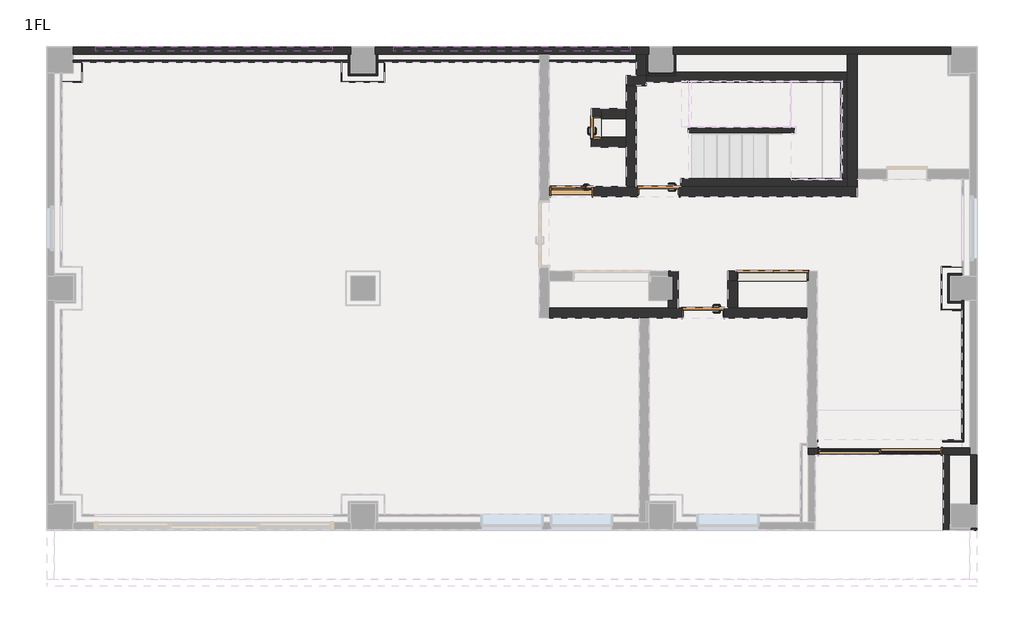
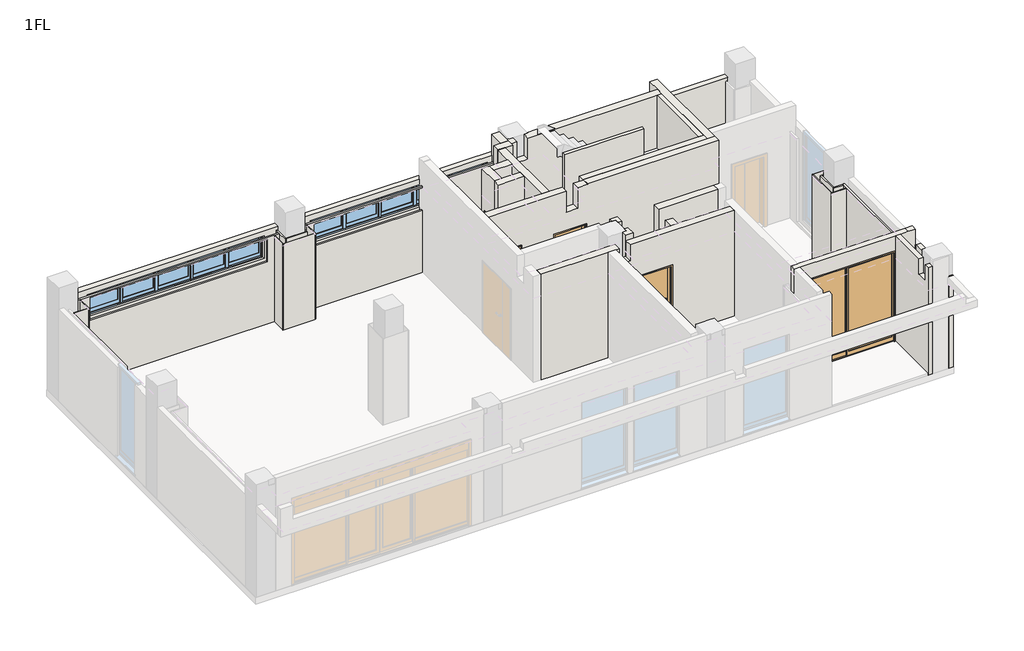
# One storey, part 2 of 3: 42 walls, 6 doors, 2 windows.
"""IFC4 building model written with IfcOpenShell, lengths in millimetres."""

from ifc_helpers import new_model, si_unit, frame, origin, place, context, project, spatial, polyline, outline, extrude, faceted_brep, transform, mapped, element, save
from components import door_bff3f04c, door_5d5221cc, door_e94faea5, door_b2e5d67d, door_75bfbb1d, window_ed3df4e0

model = new_model("IFC4")

# Units and contexts
model_context = context("Model", 3, world=origin())
ifc_project = project(units=[si_unit("LENGTHUNIT", "METRE", prefix="MILLI")], contexts=[model_context])

# Site, building, storey
site = spatial("IfcSite", under=ifc_project)
building = spatial("IfcBuilding", under=site)
storey = spatial("IfcBuildingStorey", under=building, Name="1FL", Elevation=100.0)

# Doors
placement = place(None, origin())
door_shape = door_bff3f04c(model_context)
element("IfcDoor", 1, ObjectType="140_片開扉_スリットガラリ付 : SD3_H2000W800", at=placement, inside=storey, context=model_context, shape_type="MappedRepresentation", body=[
    mapped(door_shape, transform((10290.0, 6540.0, 100.0), x_axis=(-1.0, 0.0, 0.0), y_axis=(0.0, -1.0, 0.0), z_axis=(0.0, 0.0, 1.0))),
])
door_2_shape = door_5d5221cc(model_context)
element("IfcDoor", 2, ObjectType="B1 両開 フラッシュ_A1枠 : SD6-H2000W1400", at=placement, inside=storey, context=model_context, shape_type="MappedRepresentation", body=[
    mapped(door_2_shape, transform((14340.0, 4840.0, 100.0), x_axis=(1.0, 0.0, 0.0), y_axis=(0.0, 1.0, 0.0), z_axis=(0.0, 0.0, 1.0))),
])
door_3_shape = door_e94faea5(model_context)
element("IfcDoor", 3, ObjectType="A1 片開 フラッシュ_A1枠 : SD4_H2000W800", at=placement, inside=storey, context=model_context, shape_type="MappedRepresentation", body=[
    mapped(door_3_shape, transform((12040.0, 6540.0, 100.0), x_axis=(1.0, 0.0, 0.0), y_axis=(0.0, 1.0, 0.0), z_axis=(0.0, 0.0, 1.0))),
])
door_4_shape = door_b2e5d67d(model_context)
element("IfcDoor", 4, ObjectType="A1 片開 フラッシュ_A1枠 : SD4_H2000W400", at=placement, inside=storey, context=model_context, shape_type="MappedRepresentation", body=[
    mapped(door_4_shape, transform((10790.0, 7835.0, 100.0), x_axis=(0.0, -1.0, 0.0), y_axis=(1.0, 0.0, 0.0), z_axis=(0.0, 0.0, 1.0))),
])
element("IfcDoor", 5, ObjectType="A1 片開 フラッシュ_A1枠 : SD2_H2000W800", at=placement, inside=storey, context=model_context, shape_type="MappedRepresentation", body=[
    mapped(door_3_shape, transform((12940.0, 4090.0, 100.0), x_axis=(1.0, 0.0, 0.0), y_axis=(0.0, 1.0, 0.0), z_axis=(0.0, 0.0, 1.0))),
])
door_5_shape = door_75bfbb1d(model_context)
element("IfcDoor", 6, ObjectType="C_引違扉_フラッシュ : SSD1-H2550W2470", at=placement, inside=storey, context=model_context, shape_type="MappedRepresentation", body=[
    mapped(door_5_shape, transform((16505.0, 1302.5, 100.0), x_axis=(-1.0, 0.0, 0.0), y_axis=(0.0, -1.0, 0.0), z_axis=(0.0, 0.0, 1.0))),
])

# Walls
element("IfcWall", 7, ObjectType="•_RC120+押出法ポリスチレンフォーム1種 t25", at=placement, inside=storey, context=model_context, shape_type="Brep", body=[
    faceted_brep([(17930.0, 9305.0, 50.0), (17930.0, 9305.0, 2650.0), (12340.0, 9305.0, 2650.0), (12340.0, 9305.0, 50.0), (12359.9998932, 9305.0, 50.0), (12389.9998932, 9305.0, 50.0), (15840.0, 9305.0, 50.0), (16040.0, 9305.0, 50.0), (17869.9999426, 9305.0, 50.0), (17899.9999426, 9305.0, 50.0), (17930.0, 9450.0, 2650.0), (17930.0, 9450.0, 50.0), (12340.0, 9450.0, 50.0), (12340.0, 9450.0, 2650.0)], [[[0, 1, 2, 3, 4, 5, 6, 7, 8, 9]], [[10, 11, 12, 13]], [[11, 0, 9, 8, 7, 6, 5, 4, 3, 12]], [[1, 10, 13, 2]], [[1, 0, 11, 10]], [[3, 2, 13, 12]]]),
    faceted_brep([(5840.0, 9305.0, 50.0), (5840.0, 9305.0, 2650.0), (250.0, 9305.0, 2650.0), (250.0, 9305.0, 50.0), (5789.9995306, 9305.0, 50.0), (5819.9995306, 9305.0, 50.0), (5470.0, 9305.0, 2500.0), (5470.0, 9305.0, 1865.0), (710.0, 9305.0, 1865.0), (710.0, 9305.0, 2500.0), (5840.0, 9450.0, 2650.0), (5840.0, 9450.0, 50.0), (250.0, 9450.0, 50.0), (250.0, 9450.0, 2650.0), (5470.0, 9450.0, 1830.0), (5470.0, 9450.0, 2500.0), (710.0, 9450.0, 2500.0), (710.0, 9450.0, 1830.0), (5470.0, 9370.0, 1830.0), (5470.0, 9370.0, 1865.0), (710.0, 9370.0, 1865.0), (710.0, 9370.0, 1830.0)], [[[0, 1, 2, 3, 4, 5], [6, 7, 8, 9]], [[10, 11, 12, 13], [14, 15, 16, 17]], [[11, 0, 5, 4, 3, 12]], [[1, 10, 13, 2]], [[1, 0, 11, 10]], [[15, 14, 18, 19, 7, 6]], [[8, 20, 21, 17, 16, 9]], [[7, 19, 20, 8]], [[15, 6, 9, 16]], [[18, 14, 17, 21]], [[19, 18, 21, 20]], [[3, 2, 13, 12]]]),
    faceted_brep([(6340.0, 9305.0, 2650.0), (6340.0, 9305.0, 50.0), (6359.9999426, 9305.0, 50.0), (6389.9999426, 9305.0, 50.0), (9640.0, 9305.0, 50.0), (9840.0, 9305.0, 50.0), (11590.452236, 9305.0, 50.0), (11790.452236, 9305.0, 50.0), (11820.452236, 9305.0, 50.0), (11840.0, 9305.0, 50.0), (11840.0, 9305.0, 2650.0), (11470.0, 9305.0, 2500.0), (11470.0, 9305.0, 1865.0), (6710.0, 9305.0, 1865.0), (6710.0, 9305.0, 2500.0), (6340.0, 9450.0, 50.0), (6340.0, 9450.0, 2650.0), (11840.0, 9450.0, 2650.0), (11840.0, 9450.0, 50.0), (11470.0, 9450.0, 1830.0), (11470.0, 9450.0, 2500.0), (6710.0, 9450.0, 2500.0), (6710.0, 9450.0, 1830.0), (11470.0, 9370.0, 1830.0), (11470.0, 9370.0, 1865.0), (6710.0, 9370.0, 1865.0), (6710.0, 9370.0, 1830.0)], [[[0, 1, 2, 3, 4, 5, 6, 7, 8, 9, 10], [11, 12, 13, 14]], [[15, 16, 17, 18], [19, 20, 21, 22]], [[1, 15, 18, 9, 8, 7, 6, 5, 4, 3, 2]], [[16, 0, 10, 17]], [[20, 19, 23, 24, 12, 11]], [[13, 25, 26, 22, 21, 14]], [[12, 24, 25, 13]], [[20, 11, 14, 21]], [[23, 19, 22, 26]], [[24, 23, 26, 25]], [[1, 0, 16, 15]], [[10, 9, 18, 17]]]),
])
element("IfcWall", 8, ObjectType="•_RC120+押出法ポリスチレンフォーム1種 t25", at=placement, inside=storey, context=model_context, shape_type="Brep", body=[
    faceted_brep([(18305.0, 1375.0, 50.0), (15240.0, 1375.0, 50.0), (15055.0, 1375.0, 50.0), (15055.0, 1375.0, 3100.0), (18125.0, 1375.0, 3100.0), (18305.0, 1375.0, 3100.0), (17765.0, 1375.0, 2675.0), (15245.0, 1375.0, 2675.0), (15245.0, 1375.0, 85.0), (17765.0, 1375.0, 85.0), (18305.0, 1230.0, 50.0), (18305.0, 1230.0, 2650.0), (18305.0, 1230.0, 3100.0), (18125.0, 1230.0, 3100.0), (17900.0, 1230.0, 3100.0), (17780.0, 1230.0, 3100.0), (15200.0, 1230.0, 3100.0), (15055.0, 1230.0, 3100.0), (15055.0, 1230.0, 50.0), (15200.0, 1230.0, 50.0), (17780.0, 1230.0, 50.0), (17900.0, 1230.0, 50.0), (17765.0, 1230.0, 2675.0), (17765.0, 1230.0, 85.0), (15245.0, 1230.0, 85.0), (15245.0, 1230.0, 2675.0)], [[[0, 1, 2, 3, 4, 5], [6, 7, 8, 9]], [[10, 11, 12, 13, 14, 15, 16, 17, 18, 19, 20, 21], [22, 23, 24, 25]], [[2, 1, 0, 10, 21, 20, 19, 18]], [[0, 5, 12, 11, 10]], [[3, 2, 18, 17]], [[5, 4, 13, 12]], [[4, 3, 17, 16, 15, 14, 13]], [[23, 22, 6, 9]], [[24, 23, 9, 8]], [[25, 24, 8, 7]], [[22, 25, 7, 6]]]),
])
element("IfcWall", 9, ObjectType="•ALC100+20", at=placement, inside=storey, context=model_context, shape_type="Brep", body=[
    faceted_brep([(18330.0, 1230.0, 2650.0), (18330.0, 1230.0, 50.0), (18330.0, 250.0, 50.0), (18330.0, 250.0, 2650.0), (18450.0, 1230.0, 50.0), (18450.0, 1230.0, 2650.0), (18450.0, 250.0, 2650.0), (18450.0, 250.0, 50.0)], [[[0, 1, 2, 3]], [[4, 5, 6, 7]], [[1, 4, 7, 2]], [[5, 0, 3, 6]], [[1, 0, 5, 4]], [[3, 2, 7, 6]]]),
    faceted_brep([(18330.0, -284.9999682, 50.0), (18330.0, -284.9999682, 2650.0), (18330.0, -250.0, 2650.0), (18330.0, -250.0, 50.0), (18450.0, -284.9999682, 2650.0), (18450.0, -284.9999682, 2450.0), (18450.0, -284.9999682, 50.0), (18450.0, -250.0, 50.0), (18450.0, -250.0, 2650.0)], [[[0, 1, 2, 3]], [[4, 5, 6, 7, 8]], [[6, 0, 3, 7]], [[1, 4, 8, 2]], [[0, 6, 5, 4, 1]], [[3, 2, 8, 7]]]),
])
element("IfcWall", 10, ObjectType="•ALC100+20", at=placement, inside=storey, context=model_context, shape_type="Brep", body=[
    faceted_brep([(17780.0, 1230.0, 50.0), (17780.0, -284.9999682, 50.0), (17780.0, -284.9999682, 3100.0), (17780.0, -150.0, 3100.0), (17780.0, -150.0, 2650.0), (17780.0, 150.0, 2650.0), (17780.0, 150.0, 3100.0), (17780.0, 1230.0, 3100.0), (17900.0, -284.9999682, 50.0), (17900.0, -164.9999682, 50.0), (17900.0, 1230.0, 50.0), (17900.0, 1230.0, 3100.0), (17900.0, 150.0, 3100.0), (17900.0, 150.0, 2650.0), (17900.0, -150.0, 2650.0), (17900.0, -150.0, 3100.0), (17900.0, -284.9999682, 3100.0)], [[[0, 1, 2, 3, 4, 5, 6, 7]], [[8, 9, 10, 11, 12, 13, 14, 15, 16]], [[1, 0, 10, 9, 8]], [[11, 7, 6, 12]], [[2, 16, 15, 3]], [[0, 7, 11, 10]], [[2, 1, 8, 16]], [[5, 13, 12, 6]], [[14, 4, 3, 15]], [[13, 5, 4, 14]]]),
])
element("IfcWall", 11, ObjectType="•RC30+12.5", at=placement, inside=storey, context=model_context, shape_type="Brep", body=[
    faceted_brep([(250.0, 9147.5, 50.0), (426.0, 9147.5, 50.0), (438.5, 9147.5, 50.0), (5651.5, 9147.5, 50.0), (5664.0, 9147.5, 50.0), (5790.0000498, 9147.5, 50.0), (5790.0000498, 9147.5, 2550.0), (5664.0, 9147.5, 2550.0), (5651.5, 9147.5, 2550.0), (438.5, 9147.5, 2550.0), (426.0, 9147.5, 2550.0), (250.0, 9147.5, 2550.0), (5470.0, 9147.5, 2500.0), (5470.0, 9147.5, 1865.0), (710.0, 9147.5, 1865.0), (710.0, 9147.5, 2500.0), (5789.9999097, 9190.0, 50.0), (250.0, 9190.0, 50.0), (250.0, 9190.0, 2550.0), (5789.9999097, 9190.0, 2550.0), (5470.0, 9190.0, 1865.0), (5470.0, 9190.0, 2500.0), (710.0, 9190.0, 2500.0), (710.0, 9190.0, 1865.0)], [[[0, 1, 2, 3, 4, 5, 6, 7, 8, 9, 10, 11], [12, 13, 14, 15]], [[16, 17, 18, 19], [20, 21, 22, 23]], [[5, 4, 3, 2, 1, 0, 17, 16]], [[11, 10, 9, 8, 7, 6, 19, 18]], [[0, 11, 18, 17]], [[6, 5, 16, 19]], [[12, 21, 20, 13]], [[14, 23, 22, 15]], [[13, 20, 23, 14]], [[21, 12, 15, 22]]]),
])
element("IfcWall", 12, ObjectType="•RC30+12.5", at=placement, inside=storey, context=model_context, shape_type="Brep", body=[
    faceted_brep([(6389.9999426, 9147.5, 50.0), (6516.0000044, 9147.5, 50.0), (6528.5000044, 9147.5, 50.0), (9640.0, 9147.5, 50.0), (9640.0, 9147.5, 1865.0), (6710.0, 9147.5, 1865.0), (6710.0, 9147.5, 2500.0), (9640.0, 9147.5, 2500.0), (9640.0, 9147.5, 2550.0), (6528.5000044, 9147.5, 2550.0), (6516.0000044, 9147.5, 2550.0), (6389.9999426, 9147.5, 2550.0), (9640.0, 9190.0, 50.0), (6389.9999426, 9190.0, 50.0), (6389.9999426, 9190.0, 2550.0), (9640.0, 9190.0, 2550.0), (9640.0, 9190.0, 2500.0), (6710.0, 9190.0, 2500.0), (6710.0, 9190.0, 1865.0), (9640.0, 9190.0, 1865.0)], [[[0, 1, 2, 3, 4, 5, 6, 7, 8, 9, 10, 11]], [[12, 13, 14, 15, 16, 17, 18, 19]], [[3, 2, 1, 0, 13, 12]], [[11, 10, 9, 8, 15, 14]], [[15, 8, 7, 16]], [[3, 12, 19, 4]], [[0, 11, 14, 13]], [[5, 18, 17, 6]], [[18, 5, 4, 19]], [[6, 17, 16, 7]]]),
])
element("IfcWall", 13, ObjectType="•RC30+12.5", at=placement, inside=storey, context=model_context, shape_type="Brep", body=[
    faceted_brep([(18147.5, 4339.9999905, 50.0), (18147.5, 4320.0000823, 50.0), (18147.5, 4290.0000823, 50.0), (18147.5, 4160.0, 50.0), (18147.5, 4147.5, 50.0), (18147.5, 1532.5, 50.0), (18147.5, 1490.0, 50.0), (18147.5, 1490.0, 2550.0), (18147.5, 1532.5, 2550.0), (18147.5, 4147.5, 2550.0), (18147.5, 4160.0, 2550.0), (18147.5, 4290.0000823, 2550.0), (18147.5, 4320.0000823, 2550.0), (18147.5, 4339.9999905, 2550.0), (18190.0, 4339.9999905, 50.0), (18190.0, 4339.9999905, 2550.0), (18190.0, 1490.0, 2550.0), (18190.0, 1490.0, 50.0)], [[[0, 1, 2, 3, 4, 5, 6, 7, 8, 9, 10, 11, 12, 13]], [[14, 15, 16, 17]], [[6, 5, 4, 3, 2, 1, 0, 14, 17]], [[13, 12, 11, 10, 9, 8, 7, 16, 15]], [[0, 13, 15, 14]], [[7, 6, 17, 16]]]),
])
element("IfcWall", 14, ObjectType="•RC30+12.5", at=placement, inside=storey, context=model_context, shape_type="SweptSolid", body=[
    extrude(outline(polyline([(50.0, 15240.0), (50.0, 18147.5), (2550.0, 18147.5), (2550.0, 17765.0), (85.0, 17765.0), (85.0, 15245.0), (2550.0, 15245.0), (2550.0, 15240.0), (50.0, 15240.0)])), frame((0.0, 1490.0, 0.0), z_axis=(0.0, 1.0, 0.0), x_axis=(0.0, 0.0, 1.0)), (0.0, 0.0, 1.0), 42.5),
])
element("IfcWall", 15, ObjectType="•RC200", at=placement, inside=storey, context=model_context, shape_type="Brep", body=[
    faceted_brep([(12440.0, 4190.0, 50.0), (12440.0, 4939.9999966, 50.0), (12440.0, 4939.9999966, 3250.0), (12440.0, 4740.0, 3250.0), (12440.0, 4740.0, 2650.0), (12440.0, 4440.0, 2650.0), (12440.0, 4440.0, 3250.0), (12440.0, 4190.0, 3250.0), (12240.0, 4939.9999966, 3250.0), (12240.0, 4939.9999966, 2650.0), (12240.0, 4939.9999966, 50.0), (12240.0, 4840.0, 50.0), (12240.0, 4840.0, 2650.0), (12240.0, 4840.0, 3250.0), (12240.0, 4190.0, 3250.0), (12240.0, 4340.0, 3250.0), (12240.0, 4340.0, 50.0), (12240.0, 4190.0, 50.0), (12240.0, 4190.0, 2650.0), (12240.0, 4190.0, 3100.0), (12340.0, 4340.0, 50.0), (12340.0, 4840.0, 50.0), (12340.0, 4840.0, 3250.0), (12340.0, 4740.0, 3250.0), (12340.0, 4440.0, 3250.0), (12340.0, 4340.0, 3250.0), (12340.0, 4440.0, 2650.0), (12340.0, 4740.0, 2650.0)], [[[0, 1, 2, 3, 4, 5, 6, 7]], [[8, 9, 10, 11, 12, 13]], [[14, 15, 16, 17, 18, 19]], [[1, 0, 17, 16, 20, 21, 11, 10]], [[2, 8, 13, 22, 23, 3]], [[15, 14, 7, 6, 24, 25]], [[2, 1, 10, 9, 8]], [[21, 22, 13, 12, 11]], [[25, 20, 16, 15]], [[22, 21, 20, 25, 24, 26, 27, 23]], [[0, 7, 14, 19, 18, 17]], [[27, 4, 3, 23]], [[5, 26, 24, 6]], [[4, 27, 26, 5]]]),
])
element("IfcWall", 16, ObjectType="•RC200", at=placement, inside=storey, context=model_context, shape_type="Brep", body=[
    faceted_brep([(13367.5, 3990.0, 2127.5), (13367.5, 3990.0, 100.0), (13380.0, 3990.0, 100.0), (13380.0, 3990.0, 50.0), (15040.0, 3990.0, 50.0), (15040.0, 3990.0, 100.0), (15040.0, 3990.0, 3100.0), (12240.0, 3990.0, 3100.0), (12240.0, 3990.0, 2650.0), (11940.0, 3990.0, 2650.0), (11940.0, 3990.0, 3100.0), (9840.0, 3990.0, 3100.0), (9840.0, 3990.0, 50.0), (11649.9999991, 3990.0, 50.0), (11849.9999991, 3990.0, 50.0), (12500.0, 3990.0, 50.0), (12500.0, 3990.0, 100.0), (12512.5, 3990.0, 100.0), (12512.5, 3990.0, 2127.5), (13367.5, 4190.0, 100.0), (13367.5, 4190.0, 2127.5), (12512.5, 4190.0, 2127.5), (12512.5, 4190.0, 100.0), (12500.0, 4190.0, 100.0), (12500.0, 4190.0, 50.0), (12440.0, 4190.0, 50.0), (12240.0, 4190.0, 50.0), (9840.0, 4190.0, 50.0), (9840.0, 4190.0, 3100.0), (11940.0, 4190.0, 3100.0), (11940.0, 4190.0, 2650.0), (12240.0, 4190.0, 2650.0), (12240.0, 4190.0, 3100.0), (13440.0, 4190.0, 3100.0), (13640.0, 4190.0, 3100.0), (15040.0, 4190.0, 3100.0), (15040.0, 4190.0, 50.0), (13640.0, 4190.0, 50.0), (13440.0, 4190.0, 50.0), (13380.0, 4190.0, 50.0), (13380.0, 4190.0, 100.0)], [[[0, 1, 2, 3, 4, 5, 6, 7, 8, 9, 10, 11, 12, 13, 14, 15, 16, 17, 18]], [[19, 20, 21, 22, 23, 24, 25, 26, 27, 28, 29, 30, 31, 32, 33, 34, 35, 36, 37, 38, 39, 40]], [[12, 27, 26, 25, 24, 15, 14, 13]], [[36, 4, 3, 39, 38, 37]], [[27, 12, 11, 28]], [[4, 36, 35, 6, 5]], [[1, 0, 20, 19]], [[18, 17, 22, 21]], [[0, 18, 21, 20]], [[16, 23, 22, 17]], [[40, 2, 1, 19]], [[23, 16, 15, 24]], [[2, 40, 39, 3]], [[9, 30, 29, 10]], [[31, 8, 7, 32]], [[30, 9, 8, 31]], [[11, 10, 29, 28]], [[7, 6, 35, 34, 33, 32]]]),
])
element("IfcWall", 17, ObjectType="•RC200", at=placement, inside=storey, context=model_context, shape_type="Brep", body=[
    faceted_brep([(15040.0, 4940.0, 50.0), (13440.0, 4940.0, 50.0), (13440.0, 4940.0, 3240.0), (15040.0, 4940.0, 3240.0), (15040.0, 4940.0, 2127.5), (13612.5, 4940.0, 2127.5), (13612.5, 4940.0, 100.0), (15040.0, 4940.0, 100.0), (13440.0, 4740.0, 50.0), (13640.0, 4740.0, 50.0), (15040.0, 4740.0, 50.0), (15040.0, 4740.0, 100.0), (13612.5, 4740.0, 100.0), (13612.5, 4740.0, 2127.5), (15040.0, 4740.0, 2127.5), (15040.0, 4740.0, 3240.0), (13440.0, 4740.0, 3240.0), (13440.0, 4740.0, 2650.0)], [[[0, 1, 2, 3, 4, 5, 6, 7]], [[8, 9, 10, 11, 12, 13, 14, 15, 16, 17]], [[1, 0, 10, 9, 8]], [[3, 2, 16, 15]], [[3, 15, 14, 4]], [[10, 0, 7, 11]], [[2, 1, 8, 17, 16]], [[6, 12, 11, 7]], [[12, 6, 5, 13]], [[13, 5, 4, 14]]]),
])
element("IfcWall", 18, ObjectType="•RC200", at=placement, inside=storey, context=model_context, shape_type="SweptSolid", body=[
    extrude(outline(polyline([(4740.0, 50.0), (4190.0, 50.0), (4190.0, 3100.0), (4440.0, 3100.0), (4440.0, 2650.0), (4740.0, 2650.0), (4740.0, 50.0)])), frame((13440.0, 0.0, 0.0), z_axis=(1.0, 0.0, 0.0), x_axis=(0.0, 1.0, 0.0)), (0.0, 0.0, 1.0), 200.0),
])
element("IfcWall", 19, ObjectType="•RC200", at=placement, inside=storey, context=model_context, shape_type="Brep", body=[
    faceted_brep([(9850.0, 6440.0, 2140.0), (10730.0, 6440.0, 2140.0), (10730.0, 6440.0, 100.0), (10730.0, 6440.0, 85.0), (10705.0, 6440.0, 85.0), (10705.0, 6440.0, 50.0), (11625.0, 6440.0, 50.0), (11625.0, 6440.0, 100.0), (11612.5, 6440.0, 100.0), (11612.5, 6440.0, 2127.5), (12467.5, 6440.0, 2127.5), (12467.5, 6440.0, 100.0), (12455.0, 6440.0, 100.0), (12455.0, 6440.0, 50.0), (16040.0, 6440.0, 50.0), (16040.0, 6440.0, 100.0), (16040.0, 6440.0, 3240.0), (16040.0, 6440.0, 3250.0), (12512.5, 6440.0, 3250.0), (12512.5, 6440.0, 3240.0), (12240.0, 6440.0, 3240.0), (12240.0, 6440.0, 2650.0), (11940.0, 6440.0, 2650.0), (11940.0, 6440.0, 3240.0), (9840.0, 6440.0, 3240.0), (9840.0, 6440.0, 100.0), (9850.0, 6440.0, 100.0), (16040.0, 6640.0, 50.0), (15840.0, 6640.0, 50.0), (11590.0000045, 6640.0, 50.0), (11390.0000045, 6640.0, 50.0), (9840.0, 6640.0, 50.0), (9840.0, 6640.0, 3240.0), (11390.0000045, 6640.0, 3240.0), (11590.0000045, 6640.0, 3240.0), (11940.0, 6640.0, 3240.0), (11940.0, 6640.0, 2650.0), (12240.0, 6640.0, 2650.0), (12240.0, 6640.0, 3240.0), (12512.5, 6640.0, 3240.0), (12512.5, 6640.0, 3250.0), (15840.0, 6640.0, 3250.0), (16040.0, 6640.0, 3250.0), (16040.0, 6640.0, 3240.0), (16040.0, 6640.0, 100.0), (10730.0, 6640.0, 85.0), (10730.0, 6640.0, 2140.0), (9850.0, 6640.0, 2140.0), (9850.0, 6640.0, 85.0), (12467.5, 6640.0, 100.0), (12467.5, 6640.0, 2127.5), (11612.5, 6640.0, 2127.5), (11612.5, 6640.0, 100.0), (12455.0, 6475.0, 50.0), (12440.0, 6475.0, 50.0), (12440.0, 6605.0, 50.0), (11640.0, 6605.0, 50.0), (11640.0, 6475.0, 50.0), (11625.0, 6475.0, 50.0), (10705.0, 6480.0, 50.0), (9840.0, 6480.0, 50.0), (9840.0, 6480.0, 100.0), (9850.0, 6480.0, 85.0), (10705.0, 6480.0, 85.0), (9850.0, 6480.0, 100.0), (11625.0, 6475.0, 100.0), (11640.0, 6475.0, 100.0), (11640.0, 6605.0, 100.0), (12440.0, 6605.0, 100.0), (12440.0, 6475.0, 100.0), (12455.0, 6475.0, 100.0)], [[[0, 1, 2, 3, 4, 5, 6, 7, 8, 9, 10, 11, 12, 13, 14, 15, 16, 17, 18, 19, 20, 21, 22, 23, 24, 25, 26]], [[27, 28, 29, 30, 31, 32, 33, 34, 35, 36, 37, 38, 39, 40, 41, 42, 43, 44], [45, 46, 47, 48], [49, 50, 51, 52]], [[31, 30, 29, 28, 27, 14, 13, 53, 54, 55, 56, 57, 58, 6, 5, 59, 60]], [[17, 42, 41, 40, 18]], [[14, 27, 44, 43, 42, 17, 16, 15]], [[60, 61, 25, 24, 32, 31]], [[46, 45, 3, 2, 1]], [[45, 48, 62, 63, 4, 3]], [[48, 47, 0, 26, 64, 62]], [[1, 0, 47, 46]], [[11, 10, 50, 49]], [[49, 52, 8, 7, 65, 66, 67, 68, 69, 70, 12, 11]], [[9, 8, 52, 51]], [[10, 9, 51, 50]], [[61, 64, 26, 25]], [[64, 61, 60, 59, 63, 62]], [[58, 65, 7, 6]], [[65, 58, 57, 66]], [[66, 57, 56, 67]], [[67, 56, 55, 68]], [[68, 55, 54, 69]], [[69, 54, 53, 70]], [[70, 53, 13, 12]], [[63, 59, 5, 4]], [[22, 36, 35, 23]], [[37, 21, 20, 38]], [[36, 22, 21, 37]], [[24, 23, 35, 34, 33, 32]], [[19, 39, 38, 20]], [[39, 19, 18, 40]]]),
])
element("IfcWall", 20, ObjectType="•RC200", at=placement, inside=storey, context=model_context, shape_type="Brep", body=[
    faceted_brep([(16040.0, 6640.0, 50.0), (16040.0, 6790.0000027, 50.0), (16040.0, 6990.0000027, 50.0), (16040.0, 9305.0, 50.0), (16040.0, 9305.0, 3250.0), (16040.0, 6640.0, 3250.0), (15840.0, 6640.0, 50.0), (15840.0, 6640.0, 3250.0), (15840.0, 6804.5, 3250.0), (15840.0, 8747.5, 3250.0), (15840.0, 8947.5, 3250.0), (15840.0, 9305.0, 3250.0), (15840.0, 9305.0, 50.0), (15840.0, 8947.5, 50.0), (15840.0, 8747.5, 50.0), (15840.0, 6804.5, 50.0)], [[[0, 1, 2, 3, 4, 5]], [[6, 7, 8, 9, 10, 11, 12, 13, 14, 15]], [[3, 2, 1, 0, 6, 15, 14, 13, 12]], [[5, 4, 11, 10, 9, 8, 7]], [[0, 5, 7, 6]], [[4, 3, 12, 11]]]),
])
element("IfcWall", 21, ObjectType="•RC200", at=placement, inside=storey, context=model_context, shape_type="Brep", body=[
    faceted_brep([(11590.0000045, 6640.0, 50.0), (11590.0000045, 8680.0, 50.0), (11590.0000045, 8680.0, 3240.0), (11590.0000045, 6640.0, 3240.0), (11390.0000045, 8680.0, 50.0), (11390.0000045, 8210.0, 50.0), (11390.0000045, 8010.0, 50.0), (11390.0000045, 7640.0, 50.0), (11390.0000045, 7440.0, 50.0), (11390.0000045, 6640.0, 50.0), (11390.0000045, 6640.0, 3240.0), (11390.0000045, 8680.0, 3240.0)], [[[0, 1, 2, 3]], [[4, 5, 6, 7, 8, 9, 10, 11]], [[1, 0, 9, 8, 7, 6, 5, 4]], [[9, 0, 3, 10]], [[1, 4, 11, 2]], [[3, 2, 11, 10]]]),
])
element("IfcWall", 22, ObjectType="•RC200", at=placement, inside=storey, context=model_context, shape_type="Brep", body=[
    faceted_brep([(11390.0000045, 8680.0, 50.0), (11590.0000045, 8680.0, 50.0), (11790.452236, 8680.0, 50.0), (11790.452236, 8680.0, 3250.0), (11390.0000045, 8680.0, 3250.0), (11390.0000045, 8680.0, 3240.0), (11390.0000045, 8880.0, 50.0), (11390.0000045, 8880.0, 3250.0), (11590.452236, 8880.0, 3250.0), (11790.452236, 8880.0, 3250.0), (11790.452236, 8880.0, 50.0), (11590.452236, 8880.0, 50.0), (11790.452236, 8747.5, 50.0), (11790.452236, 8747.5, 3250.0)], [[[0, 1, 2, 3, 4, 5]], [[6, 7, 8, 9, 10, 11]], [[2, 1, 0, 6, 11, 10, 12]], [[4, 3, 13, 9, 8, 7]], [[0, 5, 4, 7, 6]], [[3, 2, 12, 10, 9, 13]]]),
])
element("IfcWall", 23, ObjectType="•t=30mm", at=placement, inside=storey, context=model_context, shape_type="Brep", body=[
    faceted_brep([(11790.452236, 9305.0, 50.0), (11790.452236, 8880.0001317, 50.0), (11790.452236, 8880.0001317, 2550.0), (11790.452236, 9305.0, 2550.0), (11820.452236, 9305.0, 50.0), (11820.452236, 9305.0, 2550.0), (11820.452236, 8910.0001317, 2550.0), (11820.452236, 8880.0001317, 2550.0), (11820.452236, 8880.0001317, 50.0), (11820.452236, 8910.0001317, 50.0)], [[[0, 1, 2, 3]], [[4, 5, 6, 7, 8, 9]], [[1, 0, 4, 9, 8]], [[3, 2, 7, 6, 5]], [[2, 1, 8, 7]], [[0, 3, 5, 4]]]),
])
element("IfcWall", 24, ObjectType="•t=30mm", at=placement, inside=storey, context=model_context, shape_type="Brep", body=[
    faceted_brep([(11820.452236, 8880.0001317, 50.0), (12389.9998932, 8880.0001317, 50.0), (12389.9998932, 8880.0001317, 2550.0), (11820.452236, 8880.0001317, 2550.0), (11820.452236, 8910.0001317, 50.0), (11820.452236, 8910.0001317, 2550.0), (12359.9998932, 8910.0001317, 2550.0), (12389.9998932, 8910.0001317, 2550.0), (12389.9998932, 8910.0001317, 50.0), (12359.9998932, 8910.0001317, 50.0)], [[[0, 1, 2, 3]], [[4, 5, 6, 7, 8, 9]], [[1, 0, 4, 9, 8]], [[3, 2, 7, 6, 5]], [[0, 3, 5, 4]], [[2, 1, 8, 7]]]),
])
element("IfcWall", 25, ObjectType="•t=30mm", at=placement, inside=storey, context=model_context, shape_type="Brep", body=[
    faceted_brep([(12389.9998932, 8910.0001317, 50.0), (12389.9998932, 8947.5, 50.0), (12389.9998932, 9305.0, 50.0), (12389.9998932, 9305.0, 2550.0), (12389.9998932, 8947.5, 2550.0), (12389.9998932, 8910.0001317, 2550.0), (12359.9998932, 8910.0001317, 50.0), (12359.9998932, 8910.0001317, 2550.0), (12359.9998932, 8947.5, 2550.0), (12359.9998932, 9305.0, 2550.0), (12359.9998932, 9305.0, 50.0), (12359.9998932, 8947.5, 50.0)], [[[0, 1, 2, 3, 4, 5]], [[6, 7, 8, 9, 10, 11]], [[2, 1, 0, 6, 11, 10]], [[5, 4, 3, 9, 8, 7]], [[0, 5, 7, 6]], [[3, 2, 10, 9]]]),
])
element("IfcWall", 26, ObjectType="•RC200", at=placement, inside=storey, context=model_context, shape_type="Brep", body=[
    faceted_brep([(11790.452236, 8880.0, 50.0), (11790.452236, 8947.5, 50.0), (11790.452236, 9305.0, 50.0), (11790.452236, 9305.0, 3250.0), (11790.452236, 8947.5, 3250.0), (11790.452236, 8880.0, 3250.0), (11590.452236, 8880.0, 50.0), (11590.452236, 8880.0, 3250.0), (11590.452236, 9305.0, 3250.0), (11590.452236, 9305.0, 50.0), (11590.452236, 9190.0, 50.0), (11590.452236, 9147.5, 50.0)], [[[0, 1, 2, 3, 4, 5]], [[6, 7, 8, 9, 10, 11]], [[2, 1, 0, 6, 11, 10, 9]], [[5, 4, 3, 8, 7]], [[0, 5, 7, 6]], [[3, 2, 9, 8]]]),
])
element("IfcWall", 27, ObjectType="•RC30+12.5", at=placement, inside=storey, context=model_context, shape_type="SweptSolid", body=[
    extrude(outline(polyline([(9840.0, 9147.5), (9840.0, 9190.0), (11590.452236, 9190.0), (11590.452236, 9147.5), (9840.0, 9147.5)])), frame((0.0, 0.0, 50.0), z_axis=(0.0, 0.0, 1.0), x_axis=(1.0, 0.0, 0.0)), (0.0, 0.0, 1.0), 2500.0),
])
element("IfcWall", 28, ObjectType="•t=30mm", at=placement, inside=storey, context=model_context, shape_type="Brep", body=[
    faceted_brep([(5789.9995306, 9305.0, 50.0), (5789.9999097, 9190.0, 50.0), (5790.0000498, 9147.5, 50.0), (5790.0009316, 8880.0001317, 50.0), (5790.0009316, 8880.0001317, 2550.0), (5790.0000498, 9147.5, 2550.0), (5789.9999097, 9190.0, 2550.0), (5789.9995306, 9305.0, 2550.0), (5819.9995306, 9305.0, 50.0), (5819.9995306, 9305.0, 2550.0), (5820.0008327, 8910.0001292, 2550.0), (5820.0009316, 8880.0001292, 2550.0), (5820.0009316, 8880.0001292, 50.0), (5820.0008327, 8910.0001292, 50.0)], [[[0, 1, 2, 3, 4, 5, 6, 7]], [[8, 9, 10, 11, 12, 13]], [[3, 2, 1, 0, 8, 13, 12]], [[7, 6, 5, 4, 11, 10, 9]], [[0, 7, 9, 8]], [[4, 3, 12, 11]]]),
])
element("IfcWall", 29, ObjectType="•t=30mm", at=placement, inside=storey, context=model_context, shape_type="Brep", body=[
    faceted_brep([(5820.0009316, 8880.0001292, 50.0), (6389.9999426, 8880.0000823, 50.0), (6389.9999426, 8880.0000823, 2550.0), (5820.0009316, 8880.0001292, 2550.0), (5820.0008327, 8910.0001292, 50.0), (5820.0008327, 8910.0001292, 2550.0), (6359.9999426, 8910.0000847, 2550.0), (6389.9999426, 8910.0000823, 2550.0), (6389.9999426, 8910.0000823, 50.0), (6359.9999426, 8910.0000847, 50.0)], [[[0, 1, 2, 3]], [[4, 5, 6, 7, 8, 9]], [[1, 0, 4, 9, 8]], [[3, 2, 7, 6, 5]], [[0, 3, 5, 4]], [[2, 1, 8, 7]]]),
])
element("IfcWall", 30, ObjectType="•t=30mm", at=placement, inside=storey, context=model_context, shape_type="Brep", body=[
    faceted_brep([(6389.9999426, 8910.0000823, 50.0), (6389.9999426, 9147.5, 50.0), (6389.9999426, 9190.0, 50.0), (6389.9999426, 9305.0, 50.0), (6389.9999426, 9305.0, 2550.0), (6389.9999426, 9190.0, 2550.0), (6389.9999426, 9147.5, 2550.0), (6389.9999426, 8910.0000823, 2550.0), (6359.9999426, 8910.0000847, 50.0), (6359.9999426, 8910.0000847, 2550.0), (6359.9999426, 9305.0, 2550.0), (6359.9999426, 9305.0, 50.0)], [[[0, 1, 2, 3, 4, 5, 6, 7]], [[8, 9, 10, 11]], [[3, 2, 1, 0, 8, 11]], [[7, 6, 5, 4, 10, 9]], [[0, 7, 9, 8]], [[4, 3, 11, 10]]]),
])
element("IfcWall", 31, ObjectType="•PB12.5", at=placement, inside=storey, context=model_context, shape_type="Brep", body=[
    faceted_brep([(6516.0000044, 9147.5, 50.0), (6516.0000044, 8754.0, 50.0), (6516.0000044, 8741.5, 50.0), (6516.0000044, 8741.5, 2550.0), (6516.0000044, 8754.0, 2550.0), (6516.0000044, 9147.5, 2550.0), (6528.5000044, 9147.5, 50.0), (6528.5000044, 9147.5, 2550.0), (6528.5000044, 8741.5, 2550.0), (6528.5000044, 8741.5, 50.0)], [[[0, 1, 2, 3, 4, 5]], [[6, 7, 8, 9]], [[2, 1, 0, 6, 9]], [[5, 4, 3, 8, 7]], [[0, 5, 7, 6]], [[3, 2, 9, 8]]]),
])
element("IfcWall", 32, ObjectType="•PB12.5", at=placement, inside=storey, context=model_context, shape_type="SweptSolid", body=[
    extrude(outline(polyline([(5664.0, 8754.0), (6516.0000044, 8754.0), (6516.0000044, 8741.5), (5664.0, 8741.5), (5664.0, 8754.0)])), frame((0.0, 0.0, 50.0), z_axis=(0.0, 0.0, 1.0), x_axis=(1.0, 0.0, 0.0)), (0.0, 0.0, 1.0), 2500.0),
])
element("IfcWall", 33, ObjectType="•PB12.5", at=placement, inside=storey, context=model_context, shape_type="Brep", body=[
    faceted_brep([(5664.0, 8741.5, 50.0), (5664.0, 8754.0, 50.0), (5664.0, 9147.5, 50.0), (5664.0, 9147.5, 2550.0), (5664.0, 8754.0, 2550.0), (5664.0, 8741.5, 2550.0), (5651.5, 8741.5, 50.0), (5651.5, 8741.5, 2550.0), (5651.5, 9147.5, 2550.0), (5651.5, 9147.5, 50.0)], [[[0, 1, 2, 3, 4, 5]], [[6, 7, 8, 9]], [[2, 1, 0, 6, 9]], [[5, 4, 3, 8, 7]], [[0, 5, 7, 6]], [[3, 2, 9, 8]]]),
])
element("IfcWall", 34, ObjectType="•RC200", at=placement, inside=storey, context=model_context, shape_type="Brep", body=[
    faceted_brep([(11790.452236, 8947.5, 50.0), (11790.452236, 8947.5, 3250.0), (11840.0, 8947.5, 3250.0), (11840.0, 8947.5, 50.0), (15840.0, 8947.5, 50.0), (12389.9998932, 8947.5, 50.0), (12389.9998932, 8947.5, 2550.0), (12359.9998932, 8947.5, 2550.0), (12359.9998932, 8947.5, 50.0), (12340.0, 8947.5, 50.0), (12340.0, 8947.5, 3250.0), (12364.9999035, 8947.5, 3250.0), (12512.5, 8947.5, 3250.0), (15840.0, 8947.5, 3250.0), (11790.452236, 8747.5, 50.0), (15840.0, 8747.5, 50.0), (15840.0, 8747.5, 100.0), (15840.0, 8747.5, 3250.0), (15710.0, 8747.5, 3250.0), (12512.5, 8747.5, 3250.0), (12240.0, 8747.5, 3250.0), (12240.0, 8747.5, 2650.0), (11940.0, 8747.5, 2650.0), (11940.0, 8747.5, 3250.0), (11790.452236, 8747.5, 3250.0), (11790.452236, 8880.0, 50.0), (11840.0, 8930.0, 50.0), (12340.0, 8930.0, 50.0), (12359.9998932, 8910.0001317, 50.0), (12389.9998932, 8910.0001317, 50.0), (11790.452236, 8880.0, 3250.0), (11940.0, 8930.0, 3250.0), (11840.0, 8930.0, 3250.0), (12340.0, 8930.0, 3250.0), (12240.0, 8930.0, 3250.0), (12389.9998932, 8910.0001317, 2550.0), (12359.9998932, 8910.0001317, 2550.0), (11940.0, 8930.0, 2650.0), (12240.0, 8930.0, 2650.0)], [[[0, 1, 2, 3]], [[4, 5, 6, 7, 8, 9, 10, 11, 12, 13]], [[14, 15, 16, 17, 18, 19, 20, 21, 22, 23, 24]], [[15, 14, 25, 0, 3, 26, 27, 9, 8, 28, 29, 5, 4]], [[1, 30, 24, 23, 31, 32, 2]], [[17, 13, 12, 11, 10, 33, 34, 20, 19, 18]], [[0, 25, 14, 24, 30, 1]], [[29, 35, 6, 5]], [[36, 28, 8, 7]], [[35, 36, 7, 6]], [[35, 29, 28, 36]], [[26, 32, 31, 37, 38, 34, 33, 27]], [[32, 26, 3, 2]], [[27, 33, 10, 9]], [[13, 17, 16, 15, 4]], [[22, 37, 31, 23]], [[38, 21, 20, 34]], [[37, 22, 21, 38]]]),
])
element("IfcWall", 35, ObjectType="•RC200", at=placement, inside=storey, context=model_context, shape_type="Brep", body=[
    faceted_brep([(11390.0000045, 7640.0, 50.0), (10890.0, 7640.0, 50.0), (10690.0, 7640.0, 50.0), (10690.0, 7640.0, 100.0), (10890.0, 7640.0, 100.0), (10890.0, 7640.0, 2127.5), (10690.0, 7640.0, 2127.5), (10690.0, 7640.0, 3250.0), (10890.0, 7640.0, 3250.0), (11390.0000045, 7640.0, 3250.0), (10690.0, 7440.0, 50.0), (11390.0000045, 7440.0, 50.0), (11390.0000045, 7440.0, 3250.0), (10690.0, 7440.0, 3250.0), (10690.0, 7607.5, 2127.5), (10690.0, 7607.5, 100.0), (10890.0, 7607.5, 100.0), (10890.0, 7607.5, 2127.5)], [[[0, 1, 2, 3, 4, 5, 6, 7, 8, 9]], [[10, 11, 12, 13]], [[2, 1, 0, 11, 10]], [[9, 8, 7, 13, 12]], [[0, 9, 12, 11]], [[2, 10, 13, 7, 6, 14, 15, 3]], [[16, 17, 5, 4]], [[17, 16, 15, 14]], [[15, 16, 4, 3]], [[17, 14, 6, 5]]]),
])
element("IfcWall", 36, ObjectType="•RC200", at=placement, inside=storey, context=model_context, shape_type="Brep", body=[
    faceted_brep([(10890.0, 7640.0, 50.0), (10890.0, 8010.0, 50.0), (10890.0, 8210.0, 50.0), (10890.0, 8210.0, 3250.0), (10890.0, 8010.0, 3250.0), (10890.0, 7640.0, 3250.0), (10890.0, 7640.0, 2127.5), (10890.0, 8062.5, 2127.5), (10890.0, 8062.5, 100.0), (10890.0, 7640.0, 100.0), (10690.0, 8210.0, 50.0), (10690.0, 7640.0, 50.0), (10690.0, 7640.0, 100.0), (10690.0, 8062.5, 100.0), (10690.0, 8062.5, 2127.5), (10690.0, 7640.0, 2127.5), (10690.0, 7640.0, 3250.0), (10690.0, 8210.0, 3250.0)], [[[0, 1, 2, 3, 4, 5, 6, 7, 8, 9]], [[10, 11, 12, 13, 14, 15, 16, 17]], [[2, 1, 0, 11, 10]], [[5, 4, 3, 17, 16]], [[5, 16, 15, 6]], [[11, 0, 9, 12]], [[3, 2, 10, 17]], [[8, 13, 12, 9]], [[13, 8, 7, 14]], [[14, 7, 6, 15]]]),
])
element("IfcWall", 37, ObjectType="•RC200", at=placement, inside=storey, context=model_context, shape_type="SweptSolid", body=[
    extrude(outline(polyline([(11390.0000045, 8010.0), (10890.0, 8010.0), (10890.0, 8210.0), (11390.0000045, 8210.0), (11390.0000045, 8010.0)])), frame((0.0, 0.0, 50.0), z_axis=(0.0, 0.0, 1.0), x_axis=(1.0, 0.0, 0.0)), (0.0, 0.0, 1.0), 3200.0),
])
element("IfcWall", 38, ObjectType="•PB12.5", at=placement, inside=storey, context=model_context, shape_type="Brep", body=[
    faceted_brep([(18147.5, 4160.0, 50.0), (17750.0, 4160.0, 50.0), (17737.5, 4160.0, 50.0), (17737.5, 4160.0, 2550.0), (17750.0, 4160.0, 2550.0), (18147.5, 4160.0, 2550.0), (18147.5, 4147.5, 50.0), (18147.5, 4147.5, 2550.0), (17737.5, 4147.5, 2550.0), (17737.5, 4147.5, 50.0)], [[[0, 1, 2, 3, 4, 5]], [[6, 7, 8, 9]], [[2, 1, 0, 6, 9]], [[5, 4, 3, 8, 7]], [[0, 5, 7, 6]], [[3, 2, 9, 8]]]),
])
element("IfcWall", 39, ObjectType="•PB12.5", at=placement, inside=storey, context=model_context, shape_type="Brep", body=[
    faceted_brep([(17750.0, 4160.0, 50.0), (17750.0, 5020.0, 50.0), (17750.0, 5032.5, 50.0), (17750.0, 5032.5, 2550.0), (17750.0, 5020.0, 2550.0), (17750.0, 4160.0, 2550.0), (17737.5, 4160.0, 50.0), (17737.5, 4160.0, 2550.0), (17737.5, 5032.5, 2550.0), (17737.5, 5032.5, 50.0)], [[[0, 1, 2, 3, 4, 5]], [[6, 7, 8, 9]], [[2, 1, 0, 6, 9]], [[5, 4, 3, 8, 7]], [[0, 5, 7, 6]], [[3, 2, 9, 8]]]),
])
element("IfcWall", 40, ObjectType="•PB12.5", at=placement, inside=storey, context=model_context, shape_type="SweptSolid", body=[
    extrude(outline(polyline([(18147.5, 5020.0), (17750.0, 5020.0), (17750.0, 5032.5), (18147.5, 5032.5), (18147.5, 5020.0)])), frame((0.0, 0.0, 50.0), z_axis=(0.0, 0.0, 1.0), x_axis=(1.0, 0.0, 0.0)), (0.0, 0.0, 1.0), 2500.0),
])
element("IfcWall", 41, ObjectType="•t=30mm", at=placement, inside=storey, context=model_context, shape_type="Brep", body=[
    faceted_brep([(18147.5, 4320.0000823, 50.0), (17899.9999426, 4320.0000823, 50.0), (17869.9999426, 4320.0000823, 50.0), (17869.9999426, 4320.0000823, 2550.0), (17899.9999426, 4320.0000823, 2550.0), (18147.5, 4320.0000823, 2550.0), (18147.5, 4290.0000823, 50.0), (18147.5, 4290.0000823, 2550.0), (17869.9999426, 4290.0000823, 2550.0), (17869.9999426, 4290.0000823, 50.0)], [[[0, 1, 2, 3, 4, 5]], [[6, 7, 8, 9]], [[2, 1, 0, 6, 9]], [[5, 4, 3, 8, 7]], [[0, 5, 7, 6]], [[3, 2, 9, 8]]]),
])
element("IfcWall", 42, ObjectType="•t=30mm", at=placement, inside=storey, context=model_context, shape_type="Brep", body=[
    faceted_brep([(17899.9999426, 4320.0000823, 50.0), (17899.9999426, 4860.0000823, 50.0), (17899.9999426, 4890.0000823, 50.0), (17899.9999426, 4890.0000823, 2550.0), (17899.9999426, 4860.0000823, 2550.0), (17899.9999426, 4320.0000823, 2550.0), (17869.9999426, 4320.0000823, 50.0), (17869.9999426, 4320.0000823, 2550.0), (17869.9999426, 4890.0000823, 2550.0), (17869.9999426, 4890.0000823, 50.0)], [[[0, 1, 2, 3, 4, 5]], [[6, 7, 8, 9]], [[2, 1, 0, 6, 9]], [[5, 4, 3, 8, 7]], [[0, 5, 7, 6]], [[3, 2, 9, 8]]]),
])
element("IfcWall", 43, ObjectType="•t=30mm", at=placement, inside=storey, context=model_context, shape_type="SweptSolid", body=[
    extrude(outline(polyline([(18147.5, 4860.0000823), (17899.9999426, 4860.0000823), (17899.9999426, 4890.0000823), (18147.5, 4890.0000823), (18147.5, 4860.0000823)])), frame((0.0, 0.0, 50.0), z_axis=(0.0, 0.0, 1.0), x_axis=(1.0, 0.0, 0.0)), (0.0, 0.0, 1.0), 2500.0),
])
element("IfcWall", 44, ObjectType="•PB12.5", at=placement, inside=storey, context=model_context, shape_type="Brep", body=[
    faceted_brep([(426.0, 9147.5, 50.0), (426.0, 8754.0, 50.0), (426.0, 8741.5, 50.0), (426.0, 8741.5, 2550.0), (426.0, 8754.0, 2550.0), (426.0, 9147.5, 2550.0), (438.5, 9147.5, 50.0), (438.5, 9147.5, 2550.0), (438.5, 8741.5, 2550.0), (438.5, 8741.5, 50.0)], [[[0, 1, 2, 3, 4, 5]], [[6, 7, 8, 9]], [[2, 1, 0, 6, 9]], [[5, 4, 3, 8, 7]], [[0, 5, 7, 6]], [[3, 2, 9, 8]]]),
])
element("IfcWall", 45, ObjectType="•PB12.5", at=placement, inside=storey, context=model_context, shape_type="SweptSolid", body=[
    extrude(outline(polyline([(32.5, 8754.0), (426.0, 8754.0), (426.0, 8741.5), (32.5, 8741.5), (32.5, 8754.0)])), frame((0.0, 0.0, 50.0), z_axis=(0.0, 0.0, 1.0), x_axis=(1.0, 0.0, 0.0)), (0.0, 0.0, 1.0), 2500.0),
])
element("IfcWall", 46, ObjectType="•RC90", at=placement, inside=storey, context=model_context, shape_type="SweptSolid", body=[
    extrude(outline(polyline([(12642.5000144, 7820.0000124), (14770.0000002, 7820.0000077), (14770.0, 7730.0000077), (12642.5000142, 7730.0000124), (12642.5000144, 7820.0000124)])), frame((0.0, 0.0, 50.0), z_axis=(0.0, 0.0, 1.0), x_axis=(1.0, 0.0, 0.0)), (0.0, 0.0, 1.0), 3200.0),
])
element("IfcWall", 47, ObjectType="•RC130", at=placement, inside=storey, context=model_context, shape_type="SweptSolid", body=[
    extrude(outline(polyline([(15710.0, 6804.5), (15710.0, 8747.5), (15840.0, 8747.5), (15840.0, 6804.5), (15710.0, 6804.5)])), frame((0.0, 0.0, 100.0), z_axis=(0.0, 0.0, 1.0), x_axis=(1.0, 0.0, 0.0)), (0.0, 0.0, 1.0), 3150.0),
])
element("IfcWall", 48, ObjectType="•RC164.5", at=placement, inside=storey, context=model_context, shape_type="Brep", body=[
    faceted_brep([(12490.0, 6640.0, 50.0), (15840.0, 6640.0, 50.0), (15840.0, 6640.0, 3250.0), (12490.0, 6640.0, 3250.0), (12490.0, 6804.5, 50.0), (12490.0, 6804.5, 3250.0), (15710.0, 6804.5, 3250.0), (15840.0, 6804.5, 3250.0), (15840.0, 6804.5, 100.0), (15840.0, 6804.5, 50.0)], [[[0, 1, 2, 3]], [[4, 5, 6, 7, 8, 9]], [[1, 0, 4, 9]], [[3, 2, 7, 6, 5]], [[0, 3, 5, 4]], [[1, 9, 8, 7, 2]]]),
])

# Windows
window_shape = window_ed3df4e0(model_context)
element("IfcWindow", 49, ObjectType="B_嵌殺窓1段5列 : AW4_H560W4680", at=placement, inside=storey, context=model_context, shape_type="MappedRepresentation", body=[
    mapped(window_shape, transform((3090.0, 9377.5, 1000.0), x_axis=(1.0, 0.0, 0.0), y_axis=(0.0, 1.0, 0.0), z_axis=(0.0, 0.0, 1.0))),
])
element("IfcWindow", 50, ObjectType="B_嵌殺窓1段5列 : AW4_H560W4680", at=placement, inside=storey, context=model_context, shape_type="MappedRepresentation", body=[
    mapped(window_shape, transform((9090.0, 9377.5, 1000.0), x_axis=(1.0, 0.0, 0.0), y_axis=(0.0, 1.0, 0.0), z_axis=(0.0, 0.0, 1.0))),
])

save(model, "model.ifc")
